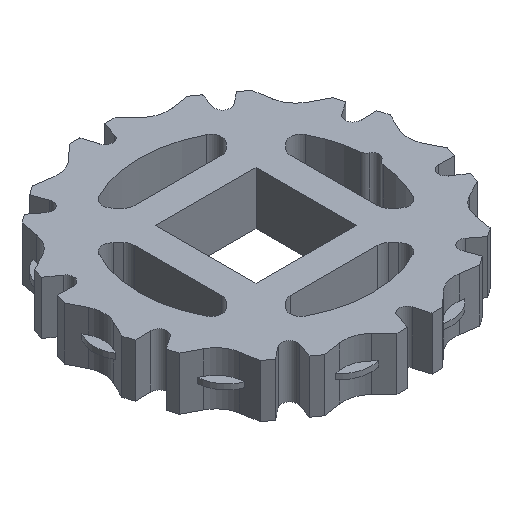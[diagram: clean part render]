
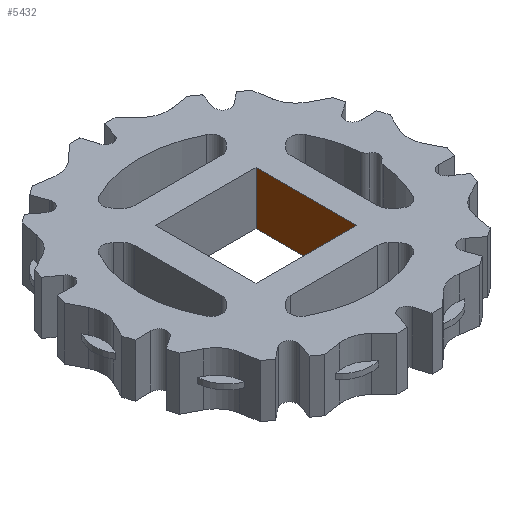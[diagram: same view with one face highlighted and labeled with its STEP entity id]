
A CAD part, isometric view. The second image highlights one B-rep face of the part: STEP entity #5432.
In plain terms, the highlighted planar face has unit normal (-1, 0, 0).
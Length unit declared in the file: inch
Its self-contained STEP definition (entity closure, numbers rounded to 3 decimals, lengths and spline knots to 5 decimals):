
#467=DIRECTION('',(0.,1.,0.));
#468=VECTOR('',#467,2.362);
#469=CARTESIAN_POINT('',(1.181,-1.181,-0.625));
#470=LINE('',#469,#468);
#995=DIRECTION('',(0.,1.,0.));
#996=VECTOR('',#995,2.362);
#997=CARTESIAN_POINT('',(1.181,-1.181,0.625));
#998=LINE('',#997,#996);
#2041=DIRECTION('',(0.,0.,-1.));
#2042=VECTOR('',#2041,1.25);
#2043=CARTESIAN_POINT('',(1.181,-1.181,0.625));
#2044=LINE('',#2043,#2042);
#2045=DIRECTION('',(0.,0.,-1.));
#2046=VECTOR('',#2045,1.25);
#2047=CARTESIAN_POINT('',(1.181,1.181,0.625));
#2048=LINE('',#2047,#2046);
#2389=CARTESIAN_POINT('',(1.181,-1.181,-0.625));
#2390=VERTEX_POINT('',#2389);
#2391=CARTESIAN_POINT('',(1.181,1.181,-0.625));
#2392=VERTEX_POINT('',#2391);
#2397=CARTESIAN_POINT('',(1.181,-1.181,0.625));
#2398=VERTEX_POINT('',#2397);
#2399=CARTESIAN_POINT('',(1.181,1.181,0.625));
#2400=VERTEX_POINT('',#2399);
#5420=CARTESIAN_POINT('',(1.181,-1.181,0.75));
#5421=DIRECTION('',(1.,0.,0.));
#5422=DIRECTION('',(0.,1.,0.));
#5423=AXIS2_PLACEMENT_3D('',#5420,#5421,#5422);
#5424=PLANE('',#5423);
#5425=ORIENTED_EDGE('',*,*,#2940,.T.);
#5427=ORIENTED_EDGE('',*,*,#5426,.F.);
#5428=ORIENTED_EDGE('',*,*,#3289,.F.);
#5429=ORIENTED_EDGE('',*,*,#5413,.T.);
#5430=EDGE_LOOP('',(#5425,#5427,#5428,#5429));
#5431=FACE_OUTER_BOUND('',#5430,.F.);
#5432=ADVANCED_FACE('',(#5431),#5424,.F.);
#2940=EDGE_CURVE('',#2390,#2392,#470,.T.);
#3289=EDGE_CURVE('',#2398,#2400,#998,.T.);
#5413=EDGE_CURVE('',#2398,#2390,#2044,.T.);
#5426=EDGE_CURVE('',#2400,#2392,#2048,.T.);
